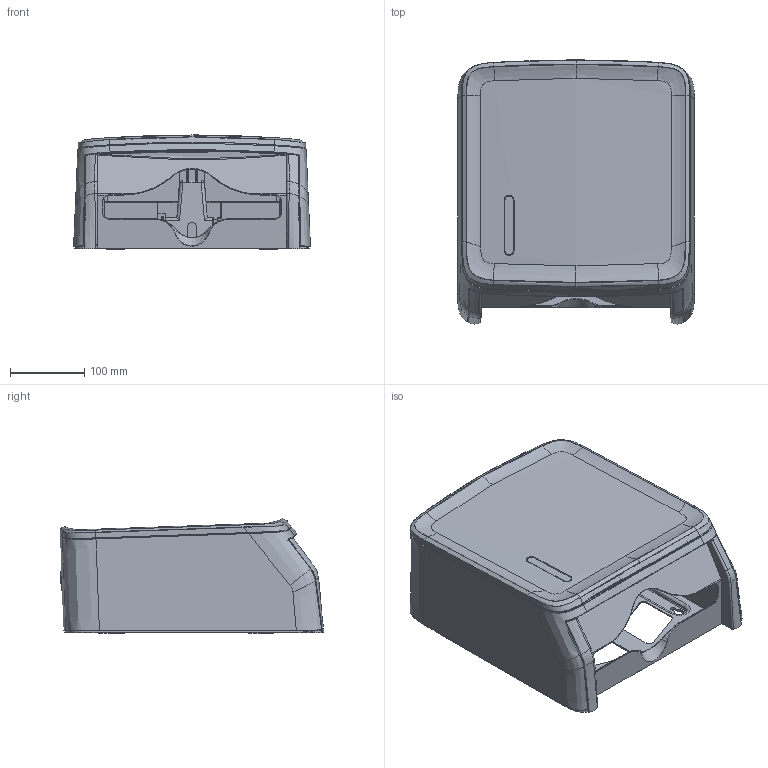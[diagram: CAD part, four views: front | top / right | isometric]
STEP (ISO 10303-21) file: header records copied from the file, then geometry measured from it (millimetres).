
FILE_DESCRIPTION (( 'STEP AP214' ), '1' );
FILE_NAME ('PureLine Paper_final.STEP', '2023-02-28T15:41:52', ( '' ), ( '' ), 'SwSTEP 2.0', 'SolidWorks 2023', '' );
FILE_SCHEMA (( 'AUTOMOTIVE_DESIGN' ));
Length unit declared in the file: millimetre
Products named in the file (8): 112447-000-00.stp; PureLine Paper_final; 112446-000-00.stp; 112444-000-00.stp; PureLine Paper_1.stp; 020609-000-00.stp; 112448-000-00.stp; 112445-000-00.stp
Assembly tree (8 placements, depth 3):
  PureLine Paper_final
    PureLine Paper_1.stp
      112448-000-00.stp
      112445-000-00.stp
      112446-000-00.stp
      112447-000-00.stp
      112444-000-00.stp
      020609-000-00.stp  x2
Bounding box: 318.8 x 355.32 x 153.49 mm (x, y, z)
Volume: 1414538 mm3; surface area: 1189465 mm2
Topology: 7 solids, 7 shells, 6684 faces, 17426 edges, 10835 vertices
Faces by surface type: bspline 3031, plane 1776, cylinder 1554, cone 125, sphere 111, torus 87
Entity records: 350340 total; most frequent: CARTESIAN_POINT 213690, ORIENTED_EDGE 34400, DIRECTION 18925, EDGE_CURVE 17200, VERTEX_POINT 10707, B_SPLINE_CURVE_WITH_KNOTS 7553, LINE 7049, VECTOR 7049
